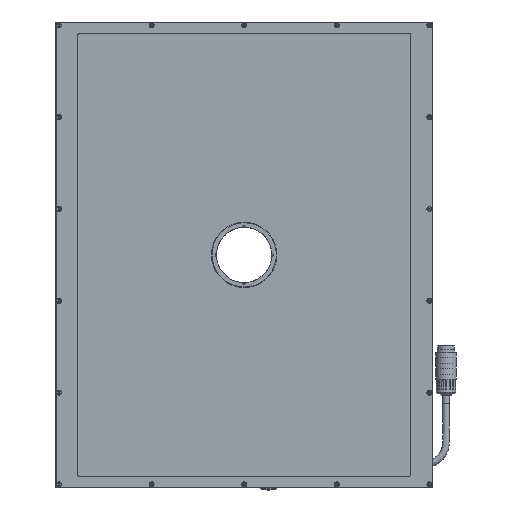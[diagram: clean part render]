
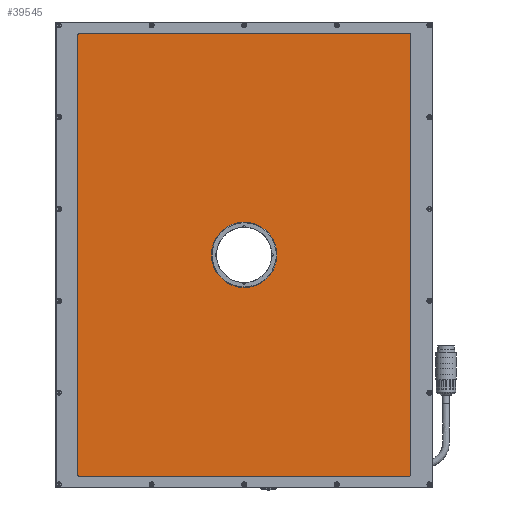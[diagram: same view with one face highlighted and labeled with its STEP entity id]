
A CAD part, top view. The second image highlights one B-rep face of the part: STEP entity #39545.
In plain terms, the highlighted planar face has unit normal (0, 0, 1).
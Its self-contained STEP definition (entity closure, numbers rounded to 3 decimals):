
#1798=LINE('',#51765,#4067);
#1799=LINE('',#51770,#4068);
#1800=LINE('',#51774,#4069);
#1801=LINE('',#51778,#4070);
#4067=VECTOR('',#44022,1000.);
#4068=VECTOR('',#44025,1000.);
#4069=VECTOR('',#44028,1000.);
#4070=VECTOR('',#44031,1000.);
#6336=ORIENTED_EDGE('',*,*,#14432,.T.);
#6337=ORIENTED_EDGE('',*,*,#14433,.F.);
#6338=ORIENTED_EDGE('',*,*,#14434,.T.);
#6339=ORIENTED_EDGE('',*,*,#14435,.F.);
#6340=ORIENTED_EDGE('',*,*,#14436,.T.);
#6341=ORIENTED_EDGE('',*,*,#14437,.F.);
#6342=ORIENTED_EDGE('',*,*,#14438,.T.);
#6343=ORIENTED_EDGE('',*,*,#14439,.F.);
#6344=ORIENTED_EDGE('',*,*,#14440,.T.);
#14432=EDGE_CURVE('',#18480,#18480,#21317,.T.);
#14433=EDGE_CURVE('',#18481,#18482,#1798,.T.);
#14434=EDGE_CURVE('',#18481,#18483,#21318,.F.);
#14435=EDGE_CURVE('',#18484,#18483,#1799,.T.);
#14436=EDGE_CURVE('',#18484,#18485,#21319,.F.);
#14437=EDGE_CURVE('',#18486,#18485,#1800,.T.);
#14438=EDGE_CURVE('',#18486,#18487,#21320,.F.);
#14439=EDGE_CURVE('',#18488,#18487,#1801,.T.);
#14440=EDGE_CURVE('',#18488,#18482,#21321,.F.);
#18480=VERTEX_POINT('',#51764);
#18481=VERTEX_POINT('',#51766);
#18482=VERTEX_POINT('',#51767);
#18483=VERTEX_POINT('',#51769);
#18484=VERTEX_POINT('',#51771);
#18485=VERTEX_POINT('',#51773);
#18486=VERTEX_POINT('',#51775);
#18487=VERTEX_POINT('',#51777);
#18488=VERTEX_POINT('',#51779);
#21317=CIRCLE('',#41280,27.5);
#21318=CIRCLE('',#41281,2.);
#21319=CIRCLE('',#41282,2.);
#21320=CIRCLE('',#41283,2.);
#21321=CIRCLE('',#41284,2.);
#22353=EDGE_LOOP('',(#6336));
#22354=EDGE_LOOP('',(#6337,#6338,#6339,#6340,#6341,#6342,#6343,#6344));
#24507=FACE_BOUND('',#22353,.T.);
#24508=FACE_BOUND('',#22354,.T.);
#26728=PLANE('',#41279);
#39545=ADVANCED_FACE('',(#24507,#24508),#26728,.T.);
#41279=AXIS2_PLACEMENT_3D('',#51762,#44018,#44019);
#41280=AXIS2_PLACEMENT_3D('',#51763,#44020,#44021);
#41281=AXIS2_PLACEMENT_3D('',#51768,#44023,#44024);
#41282=AXIS2_PLACEMENT_3D('',#51772,#44026,#44027);
#41283=AXIS2_PLACEMENT_3D('',#51776,#44029,#44030);
#41284=AXIS2_PLACEMENT_3D('',#51780,#44032,#44033);
#44018=DIRECTION('',(0.,0.,1.));
#44019=DIRECTION('',(1.,0.,0.));
#44020=DIRECTION('',(0.,0.,-1.));
#44021=DIRECTION('',(0.,1.,0.));
#44022=DIRECTION('',(1.,0.,0.));
#44023=DIRECTION('',(0.,0.,-1.));
#44024=DIRECTION('',(1.,0.,0.));
#44025=DIRECTION('',(0.,1.,0.));
#44026=DIRECTION('',(0.,0.,-1.));
#44027=DIRECTION('',(1.,0.,0.));
#44028=DIRECTION('',(-1.,0.,0.));
#44029=DIRECTION('',(0.,0.,-1.));
#44030=DIRECTION('',(1.,0.,0.));
#44031=DIRECTION('',(0.,-1.,0.));
#44032=DIRECTION('',(0.,0.,-1.));
#44033=DIRECTION('',(1.,0.,0.));
#51762=CARTESIAN_POINT('',(0.,0.,
11.05));
#51763=CARTESIAN_POINT('',(0.,0.,
11.05));
#51764=CARTESIAN_POINT('',(0.,27.5,11.05));
#51765=CARTESIAN_POINT('',(-150.5,200.5,11.05));
#51766=CARTESIAN_POINT('',(-148.5,200.5,11.05));
#51767=CARTESIAN_POINT('',(148.5,200.5,11.05));
#51768=CARTESIAN_POINT('',(-148.5,198.5,11.05));
#51769=CARTESIAN_POINT('',(-150.5,198.5,11.05));
#51770=CARTESIAN_POINT('',(-150.5,-200.5,11.05));
#51771=CARTESIAN_POINT('',(-150.5,-198.5,11.05));
#51772=CARTESIAN_POINT('',(-148.5,-198.5,11.05));
#51773=CARTESIAN_POINT('',(-148.5,-200.5,11.05));
#51774=CARTESIAN_POINT('',(150.5,-200.5,11.05));
#51775=CARTESIAN_POINT('',(148.5,-200.5,11.05));
#51776=CARTESIAN_POINT('',(148.5,-198.5,11.05));
#51777=CARTESIAN_POINT('',(150.5,-198.5,11.05));
#51778=CARTESIAN_POINT('',(150.5,200.5,11.05));
#51779=CARTESIAN_POINT('',(150.5,198.5,11.05));
#51780=CARTESIAN_POINT('',(148.5,198.5,11.05));
